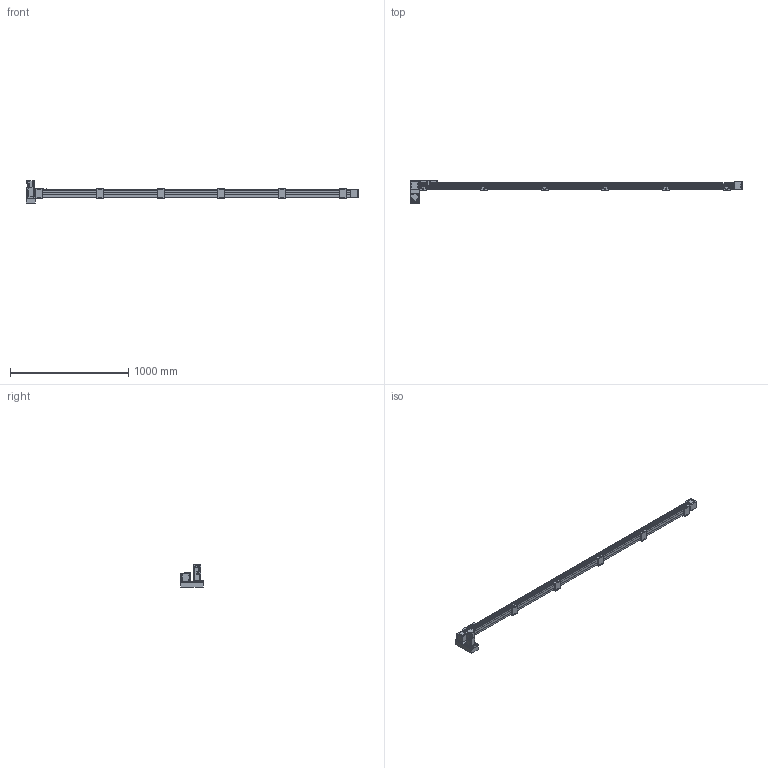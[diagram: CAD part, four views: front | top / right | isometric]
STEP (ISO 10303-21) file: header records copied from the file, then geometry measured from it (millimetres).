
FILE_DESCRIPTION(/* description */ ('STEP AP214'),/* implementation_level */ '2;1');
FILE_NAME(/* name */ 'SK60-P13-S2500-LD-T40-C1-N(0)',/* time_stamp */ '2023-04-06T04:39:55+02:00',/* author */ ('License CC BY-ND 4.0'),/* organization */ ('CADENAS'),/* preprocessor_version */ 'ST-DEVELOPER v19.3',/* originating_system */ 'PARTsolutions',/* authorisation */ ' ');
FILE_SCHEMA (('AUTOMOTIVE_DESIGN {1 0 10303 214 3 1 1}'));
Length unit declared in the file: millimetre
Products named in the file (10): SK60-P13-S2500-LD-T40-C1-N(0); PSC140-sensor; SK60-S450_seat; SK60-S450-BL-C1_slider; SK60_body3; SK60_body6; SK60-BL_body2; T40-p1; SK60-LD_fb; SK60-S2500-LD-C1_body
Assembly tree (20 placements, depth 2):
  SK60-P13-S2500-LD-T40-C1-N(0)
    PSC140-sensor  x3
    SK60-S450_seat  x6
    SK60-S450-BL-C1_slider
    SK60_body3  x3
    SK60_body6  x2
    SK60-BL_body2  x2
    T40-p1
    SK60-LD_fb
    SK60-S2500-LD-C1_body
Bounding box: 2805.5 x 199 x 189.7 mm (x, y, z)
Volume: 10766496.6 mm3; surface area: 1278422.2 mm2
Topology: 20 solids, 20 shells, 986 faces, 2440 edges, 1605 vertices
Faces by surface type: plane 620, cylinder 326, cone 38, torus 2
Full cylindrical faces by diameter (mm): 2.8 x3, 3.3 x4, 4 x2, 4.5 x30, 4.6 x3, 4.917 x32, 5 x6, 5.478 x4, 5.5 x35, 6.5 x12, 7 x2, 8 x4, 8.5 x4, 9.988 x4, 10 x24, 14 x1, 47 x3, 50 x2
Entity records: 18687 total; most frequent: DIRECTION 3192, CARTESIAN_POINT 3154, ORIENTED_EDGE 2940, EDGE_CURVE 1470, AXIS2_PLACEMENT_3D 1072, LINE 1048, VECTOR 1048, VERTEX_POINT 1034
